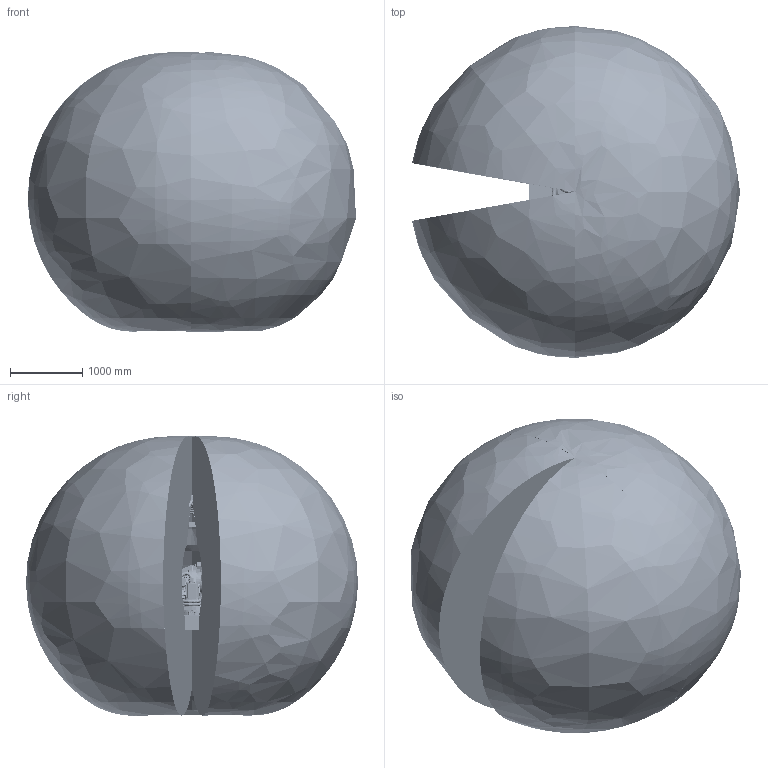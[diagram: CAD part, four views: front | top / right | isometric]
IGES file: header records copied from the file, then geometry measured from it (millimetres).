
Start section: SolidWorks IGES file using analytic representation for surfaces
Global section: file name: C:\Users\SEALDUN\OneDrive - ABB\Documents\R&D Robotics\Work Items\WI 632927\IGES\IRB5710-LID-MH_90kg-230_OC_02_IGES_J\IRB5710-LID-MH_90kg-230_OC_02_ASM.igs; native system: SolidWorks 2024; preprocessor: SolidWorks 2024; author: SEALDUN; date: 250707.154057; units: millimetre
Bounding box: 4545.16 x 4599.32 x 3868.42 mm (x, y, z)
Surface area: 90151509 mm2 (no closed solid volume)
Topology: 0 solids, 0 shells, 7706 faces, 119566 edges, 119377 vertices
Faces by surface type: bspline 4627, revolution 3079
